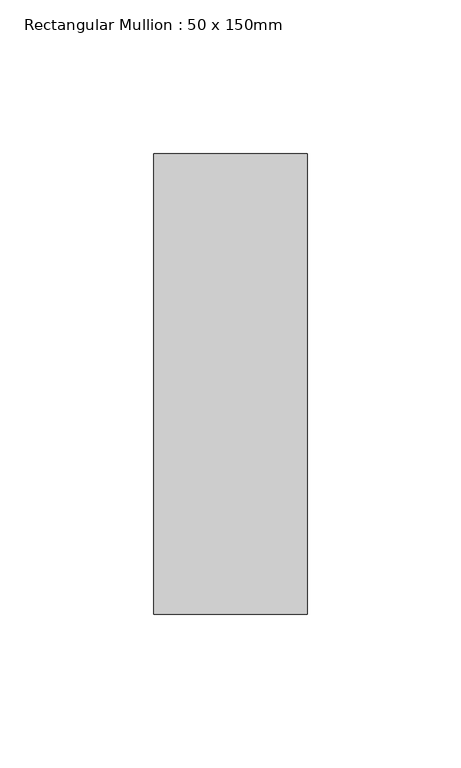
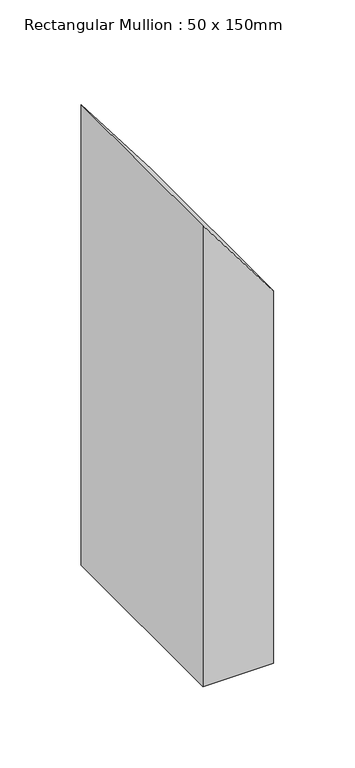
"""IFC4 building model written with IfcOpenShell, lengths in millimetres: member geometry, Rectangular Mullion : 50 x 150mm."""

from ifc_helpers import new_model, si_unit, frame, origin, place, context, project, spatial, polyline, outline, extrude, source, transform, mapped, element, save


def rectangular_mullion_50_x_150mm_563786ec(model_context):
    return source(origin(), model_context, "Body", "SweptSolid", [
        extrude(outline(polyline([(-115.9590277, 25.0), (-49.8371945, -25.0), (-395.6888853, -25.0), (-395.6888853, 25.0), (-115.9590277, 25.0)])), frame((0.0, -75.0, 0.0), z_axis=(0.0, 1.0, 0.0), x_axis=(0.0, 0.0, 1.0)), (0.0, 0.0, 1.0), 150.0),
    ])


if __name__ == "__main__":
    model = new_model("IFC4")
    model_context = context("Model", 3, world=origin())
    ifc_project = project(units=[si_unit("LENGTHUNIT", "METRE", prefix="MILLI")], contexts=[model_context])
    site = spatial("IfcSite", under=ifc_project)
    building = spatial("IfcBuilding", under=site)
    placement = place(None, origin())
    rectangular_mullion_50_x_150mm_shape = rectangular_mullion_50_x_150mm_563786ec(model_context)
    element("IfcMember", 1, ObjectType="Rectangular Mullion : 50 x 150mm", at=placement, inside=building, context=model_context, shape_type="MappedRepresentation", body=[
        mapped(rectangular_mullion_50_x_150mm_shape, transform((0.0, 0.0, 0.0), x_axis=(1.0, 0.0, 0.0), y_axis=(0.0, 1.0, 0.0), z_axis=(0.0, 0.0, 1.0))),
    ])
    save(model, "model.ifc")
